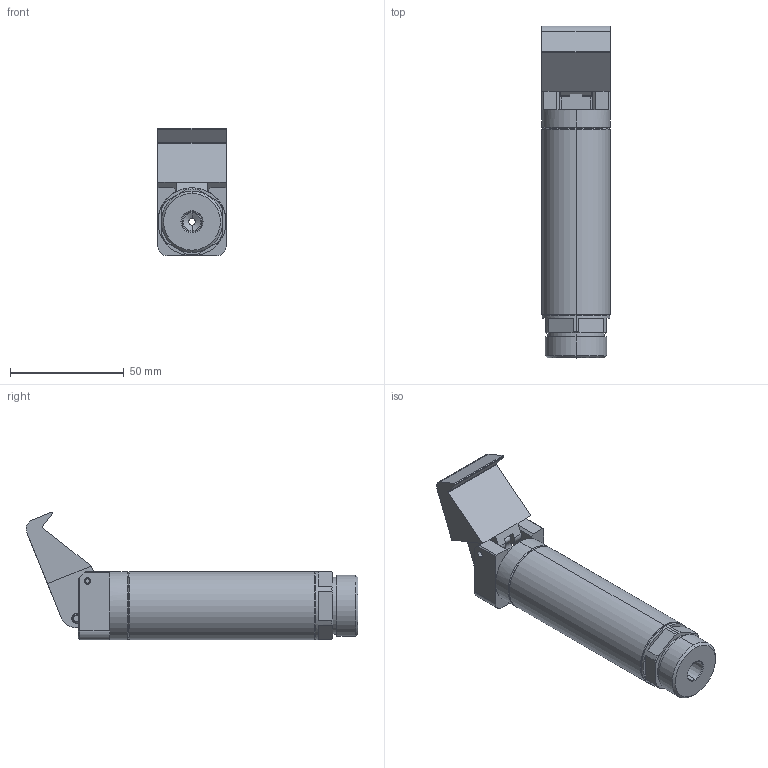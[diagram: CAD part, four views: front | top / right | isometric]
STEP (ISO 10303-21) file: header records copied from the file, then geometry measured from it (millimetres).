
FILE_DESCRIPTION (( 'STEP AP203' ), '1' );
FILE_NAME ('CA.GRF.3035.STEP', '2015-07-21T08:14:01', ( '' ), ( '' ), 'SwSTEP 2.0', 'SolidWorks 2012', '' );
FILE_SCHEMA (( 'CONFIG_CONTROL_DESIGN' ));
Length unit declared in the file: millimetre
Products named in the file (7): SP.4X14M6; GRF30.35.07; GRF30.95.05; GRF30.95.02; GRF30.95.01; CA.GRF.3035; SP.3X28M6
Assembly tree (6 placements, depth 2):
  CA.GRF.3035
    GRF30.95.01
    GRF30.95.02
    GRF30.95.05
    GRF30.35.07
    SP.4X14M6
    SP.3X28M6
Bounding box: 30 x 146.14 x 56.24 mm (x, y, z)
Volume: 55352.1 mm3; surface area: 33543.7 mm2
Topology: 6 solids, 6 shells, 239 faces, 561 edges, 347 vertices
Faces by surface type: plane 92, cylinder 76, cone 63, torus 8
Entity records: 7623 total; most frequent: DIRECTION 1284, CARTESIAN_POINT 1210, ORIENTED_EDGE 1122, EDGE_CURVE 561, AXIS2_PLACEMENT_3D 493, VERTEX_POINT 347, LINE 298, VECTOR 298
